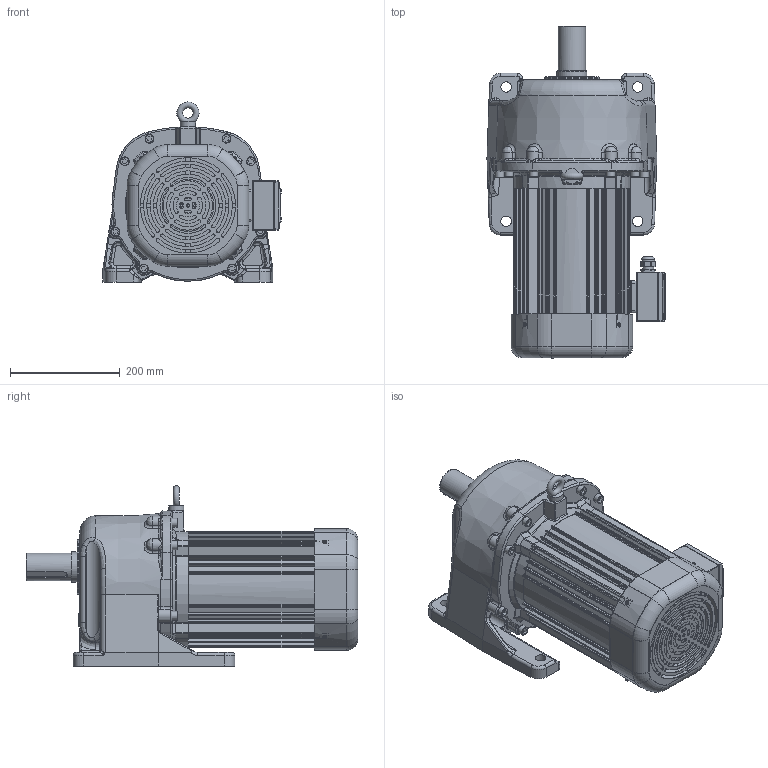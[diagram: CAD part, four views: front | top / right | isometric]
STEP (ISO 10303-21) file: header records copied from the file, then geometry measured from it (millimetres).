
FILE_DESCRIPTION(/* description */ (''),/* implementation_level */ '2;1');
FILE_NAME(/* name */ 'Z:\동력 3D 파일\PML181_3.7kW_3D.stp',/* time_stamp */ '2021-11-30T16:09:04+09:00',/* author */ ('jaebok'),/* organization */ (''),/* preprocessor_version */ 'ST-DEVELOPER v18.1',/* originating_system */ 'Autodesk Inventor 2022',/* authorisation */ '');
FILE_SCHEMA (('AUTOMOTIVE_DESIGN { 1 0 10303 214 3 1 1 }'));
Products named in the file (1): 부품19
Bounding box: 325 x 605.5 x 328.98 mm (x, y, z)
Volume: 7607070.2 mm3; surface area: 1601814.4 mm2
Topology: 5 solids, 44 shells, 3533 faces, 8855 edges, 5276 vertices
Faces by surface type: plane 1025, cylinder 959, bspline 807, torus 420, cone 195, sphere 127
Full cylindrical faces by diameter (mm): 3.25 x1, 3.6 x4, 4 x21, 4.5 x4, 5 x18, 6 x5, 6.8 x4, 7 x8, 8 x9, 8.4 x8, 9 x4, 10 x17, 10.2 x1, 11 x8, 12 x2, 12.5 x1, 15 x1, 16 x8, 19 x4, 20 x2, 21 x1, 23.6 x1, 25 x1, 26 x1, 28 x1, 31 x1, 36 x2, 48 x1, 49.6 x1, 50 x3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
Entity records: 138071 total; most frequent: CARTESIAN_POINT 54805, ORIENTED_EDGE 17234, DIRECTION 15866, EDGE_CURVE 8617, AXIS2_PLACEMENT_3D 6477, VERTEX_POINT 5276, EDGE_LOOP 3781, CIRCLE 3674
